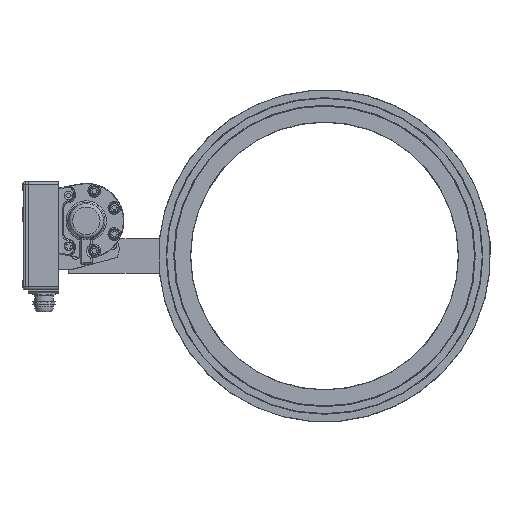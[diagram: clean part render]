
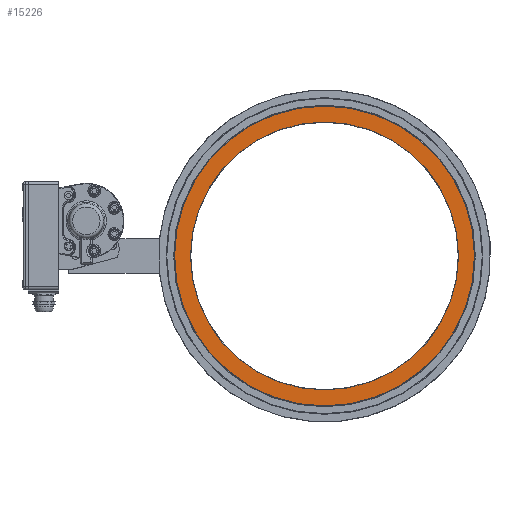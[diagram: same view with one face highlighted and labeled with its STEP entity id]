
A CAD part, top view. The second image highlights one B-rep face of the part: STEP entity #15226.
In plain terms, the highlighted planar face has unit normal (0, 0, 1).
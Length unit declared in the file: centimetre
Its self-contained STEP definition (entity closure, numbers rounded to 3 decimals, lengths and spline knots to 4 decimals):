
#4378=PLANE('',#16398);
#5172=VERTEX_POINT('',#30209);
#5173=VERTEX_POINT('',#30211);
#6378=CIRCLE('',#16430,17.375);
#6379=CIRCLE('',#16431,15.525);
#7317=EDGE_CURVE('',#5172,#5172,#6378,.T.);
#7318=EDGE_CURVE('',#5173,#5173,#6379,.T.);
#10076=ORIENTED_EDGE('',*,*,#7318,.F.);
#10077=ORIENTED_EDGE('',*,*,#7317,.F.);
#13055=EDGE_LOOP('',(#10076));
#13056=EDGE_LOOP('',(#10077));
#14214=FACE_BOUND('',#13055,.T.);
#14215=FACE_BOUND('',#13056,.T.);
#15226=ADVANCED_FACE('',(#14214,#14215),#4378,.F.);
#16398=AXIS2_PLACEMENT_3D('',#30151,#18424,$);
#16430=AXIS2_PLACEMENT_3D('',#30208,#18489,#18490);
#16431=AXIS2_PLACEMENT_3D('',#30210,#18491,#18492);
#18424=DIRECTION('',(0.,0.,-1.));
#18489=DIRECTION('',(0.,0.,-1.));
#18490=DIRECTION('',(-17.375,0.,0.));
#18491=DIRECTION('',(0.,0.,1.));
#18492=DIRECTION('',(15.525,0.,0.));
#30151=CARTESIAN_POINT('',(26.514,-2.8808,-5.7025));
#30208=CARTESIAN_POINT('',(26.514,-2.8808,-5.7025));
#30209=CARTESIAN_POINT('',(43.889,-2.8808,-5.7025));
#30210=CARTESIAN_POINT('',(26.514,-2.8808,-5.7025));
#30211=CARTESIAN_POINT('',(10.989,-2.8808,-5.7025));
